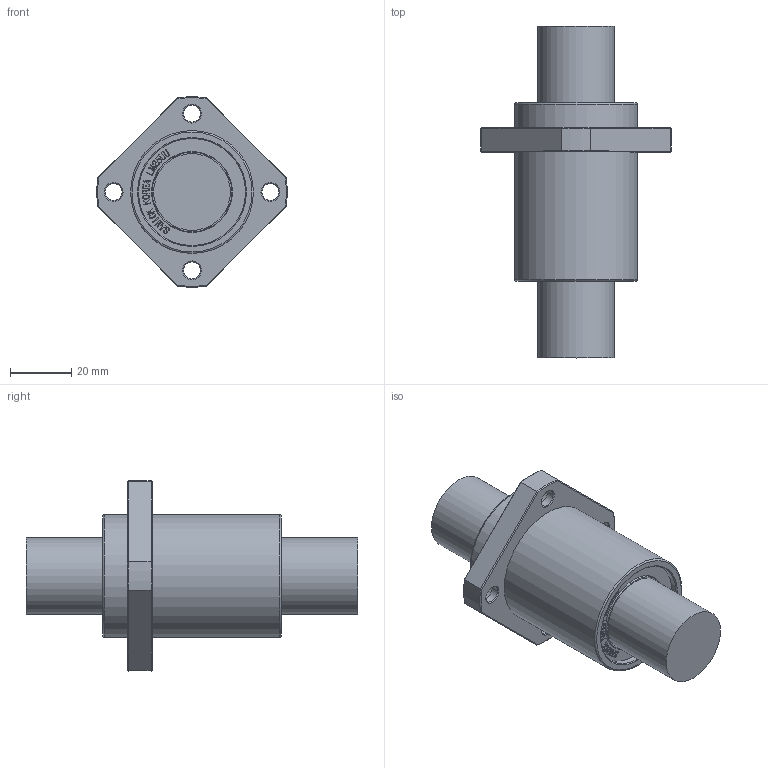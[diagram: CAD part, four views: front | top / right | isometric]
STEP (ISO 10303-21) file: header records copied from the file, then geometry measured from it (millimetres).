
FILE_DESCRIPTION(/* description */ (''),/* implementation_level */ '2;1');
FILE_NAME(/* name */ 'W:\(01) 2024년 홈페이지 CAD파일 최신화\LMEKP\IPT\LMEKP25UU.stp',/* time_stamp */ '2025-01-25T12:55:54+09:00',/* author */ ('서우현'),/* organization */ (''),/* preprocessor_version */ 'ST-DEVELOPER v17.2',/* originating_system */ 'Autodesk Inventor 2019',/* authorisation */ '');
FILE_SCHEMA (('AUTOMOTIVE_DESIGN { 1 0 10303 214 3 1 1 }'));
Length unit declared in the file: millimetre
Products named in the file (1): LM5
Bounding box: 61.92 x 108 x 61.92 mm (x, y, z)
Volume: 102877.4 mm3; surface area: 17839.4 mm2
Topology: 1 solids, 1 shells, 898 faces, 2526 edges, 1684 vertices
Faces by surface type: bspline 612, plane 246, cone 20, cylinder 18, torus 2
Full cylindrical faces by diameter (mm): 5.5 x4, 9.5 x4, 25 x2, 34.8 x2, 40 x2
Entity records: 30846 total; most frequent: CARTESIAN_POINT 11369, ORIENTED_EDGE 5052, EDGE_CURVE 2526, DIRECTION 1950, VERTEX_POINT 1684, B_SPLINE_CURVE_WITH_KNOTS 1224, LINE 1196, VECTOR 1196
